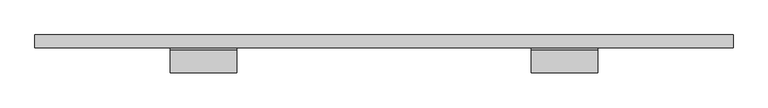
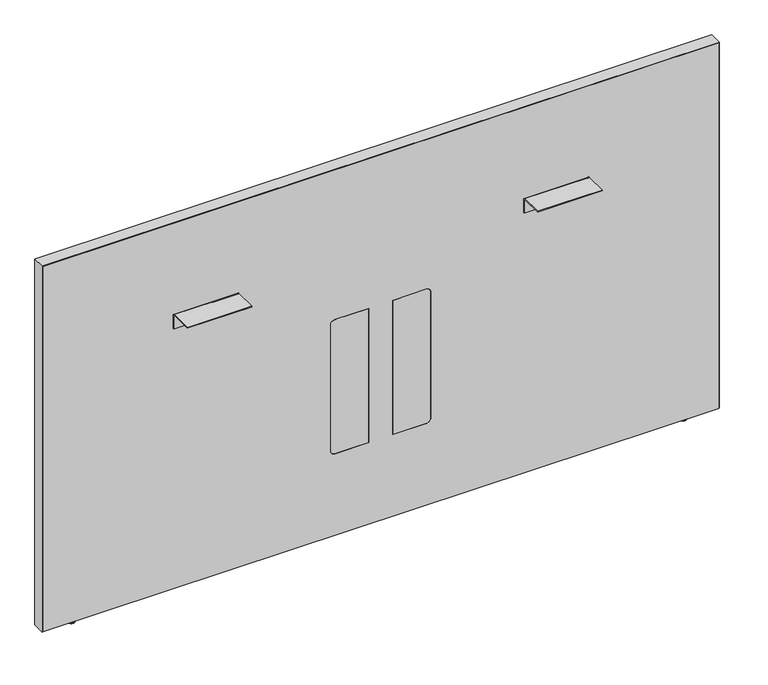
"""IFC4 building model written with IfcOpenShell, lengths in millimetres: furniture geometry, Steelcase - Answer Solution - Boundary Screen - Straight - Spanning : 36H x 63W."""

from ifc_helpers import new_model, si_unit, point, frame, frame_2d, origin, place, context, project, spatial, polyline, circle_curve, ellipse_curve, trimmed, segment, composite_curve, outline, extrude, source, transform, mapped, element, save
from ifc_brep_helpers import plane_surface, cylinder_surface, revolved_surface, advanced_brep


def furniture_7139db31(model_context):
    return source(origin(), model_context, "Body", "SolidModel", [
        advanced_brep(
        [(-493.0902705, -14.8449166, 9.9059849), (-493.0902705, -5.9309607, 9.9059849), (-493.0902705, -23.7588726, 9.9059849), (-493.0902705, -5.9309607, 2.9673238), (-493.0902705, -23.7588726, 2.9673238), (-493.0902705, -6.8982978, 2.9673238), (-493.0902705, -22.7915354, 2.9673238), (-493.0902705, -6.8982978, 1.6569081), (-493.0902705, -22.7915354, 1.6569081), (-493.0902705, -8.5552059, 0.0), (-493.0902705, -21.1346274, 0.0), (-493.0902705, -14.8449166, 0.0)],
        [
            (0, 1),
            (1, 2, circle_curve(frame((-493.0902705, -14.8449166, 9.9059849), z_axis=(0.0, 0.0, 1.0), x_axis=(0.0, 1.0, 0.0)), 8.913956)),
            (2, 0),
            (2, 1, circle_curve(frame((-493.0902705, -14.8449166, 9.9059849), z_axis=(0.0, 0.0, 1.0), x_axis=(0.0, 1.0, 0.0)), 8.913956)),
            (1, 3),
            (3, 4, circle_curve(frame((-493.0902705, -14.8449166, 2.9673238), z_axis=(0.0, 0.0, 1.0), x_axis=(0.0, 1.0, 0.0)), 8.913956)),
            (4, 2),
            (4, 3, circle_curve(frame((-493.0902705, -14.8449166, 2.9673238), z_axis=(0.0, 0.0, 1.0), x_axis=(0.0, 1.0, 0.0)), 8.913956)),
            (3, 5),
            (5, 6, circle_curve(frame((-493.0902705, -14.8449166, 2.9673238), z_axis=(0.0, 0.0, 1.0), x_axis=(0.0, 1.0, 0.0)), 7.9466188)),
            (6, 4),
            (6, 5, circle_curve(frame((-493.0902705, -14.8449166, 2.9673238), z_axis=(0.0, 0.0, 1.0), x_axis=(0.0, 1.0, 0.0)), 7.9466188)),
            (5, 7),
            (7, 8, circle_curve(frame((-493.0902705, -14.8449166, 1.6569081), z_axis=(0.0, 0.0, 1.0), x_axis=(0.0, 1.0, 0.0)), 7.9466188)),
            (8, 6),
            (8, 7, circle_curve(frame((-493.0902705, -14.8449166, 1.6569081), z_axis=(0.0, 0.0, 1.0), x_axis=(0.0, 1.0, 0.0)), 7.9466188)),
            (7, 9, circle_curve(frame((-493.0902705, -8.5552059, 1.6569081), z_axis=(-1.0, 0.0, 0.0), x_axis=(0.0, 1.0, 0.0)), 1.6569081)),
            (9, 10, circle_curve(frame((-493.0902705, -14.8449166, 0.0), z_axis=(0.0, 0.0, 1.0), x_axis=(0.0, 1.0, 0.0)), 6.2897107)),
            (10, 8, circle_curve(frame((-493.0902705, -21.1346274, 1.6569081), z_axis=(-1.0, 0.0, 0.0), x_axis=(0.0, -1.0, 0.0)), 1.6569081)),
            (10, 9, circle_curve(frame((-493.0902705, -14.8449166, 0.0), z_axis=(0.0, 0.0, 1.0), x_axis=(0.0, 1.0, 0.0)), 6.2897107)),
            (9, 11),
            (11, 10),
        ],
        [
            plane_surface(frame((-493.0902705, -14.8449166, 9.9059849), z_axis=(0.0, 0.0, 1.0), x_axis=(0.0, 1.0, 0.0))),
            cylinder_surface(frame((-493.0902705, -14.8449166, 9.9059849), z_axis=(0.0, 0.0, 1.0), x_axis=(0.0, 1.0, 0.0)), 8.913956),
            plane_surface(frame((-493.0902705, -14.8449166, 2.9673238), z_axis=(0.0, 0.0, -1.0), x_axis=(0.0, 1.0, 0.0))),
            cylinder_surface(frame((-493.0902705, -14.8449166, 9.9059849), z_axis=(0.0, 0.0, 1.0), x_axis=(0.0, 1.0, 0.0)), 7.9466188),
            revolved_surface(trimmed(ellipse_curve(frame((-493.0902705, -8.5552059, 1.6569081), z_axis=(1.0, 0.0, 0.0), x_axis=(0.0, 1.0, 0.0)), 1.6569081, 1.6569081), [point((-493.0902705, -8.5552059, 0.0))], [point((-493.0902705, -6.8982978, 1.6569081))], True, "CARTESIAN"), (-493.0902705, -14.8449166, 9.9059849), (0.0, 0.0, 1.0)),
            plane_surface(frame((-493.0902705, -14.8449166, 0.0), z_axis=(0.0, 0.0, -1.0), x_axis=(0.0, 1.0, 0.0))),
        ],
        [
            (0, [[1, 2, 3]]),
            (0, [[-3, 4, -1]]),
            (1, [[-2, 5, 6, 7]]),
            (1, [[-4, -7, 8, -5]]),
            (2, [[-6, 9, 10, 11]]),
            (2, [[-8, -11, 12, -9]]),
            (3, [[-10, 13, 14, 15]]),
            (3, [[-12, -15, 16, -13]]),
            (4, [[-14, 17, 18, 19]]),
            (4, [[-16, -19, 20, -17]]),
            (5, [[-18, 21, 22]]),
            (5, [[-20, -22, -21]]),
        ],
    ),
        extrude(outline(composite_curve([segment(polyline([(-86.8398151, 696.4680019), (-86.8398151, 698.5), (-34.9450855, 698.5)]), True, "CONTINUOUS"), segment(trimmed(circle_curve(frame_2d((-34.9450855, 693.2447477)), 5.2552523), [point((-34.9450855, 698.5))], [point((-29.6898332, 693.2447477))], False, "CARTESIAN"), True, "CONTINUOUS"), segment(polyline([(-29.6898332, 693.2447477), (-29.6898332, 660.4), (-31.7218162, 660.4), (-31.7218162, 693.0058743)]), True, "CONTINUOUS"), segment(trimmed(circle_curve(frame_2d((-35.1839438, 693.0058743)), 3.4621276), [point((-31.7218162, 693.0058743))], [point((-35.1839438, 696.4680019))], True, "CARTESIAN"), True, "CONTINUOUS"), segment(polyline([(-35.1839438, 696.4680019), (-86.8398151, 696.4680019)]), True, "CONTINUOUS")], self_intersect=False)), frame((567.8282189, 0.0, 0.0), z_axis=(1.0, 0.0, 0.0), x_axis=(0.0, 1.0, 0.0)), (0.0, 0.0, 1.0), 152.4000969),
        extrude(outline(composite_curve([segment(polyline([(-86.8398151, 696.4680019), (-86.8398151, 698.5), (-34.9450855, 698.5)]), True, "CONTINUOUS"), segment(trimmed(circle_curve(frame_2d((-34.9450855, 693.2447477)), 5.2552523), [point((-34.9450855, 698.5))], [point((-29.6898332, 693.2447477))], False, "CARTESIAN"), True, "CONTINUOUS"), segment(polyline([(-29.6898332, 693.2447477), (-29.6898332, 660.4), (-31.7218162, 660.4), (-31.7218162, 693.0058743)]), True, "CONTINUOUS"), segment(trimmed(circle_curve(frame_2d((-35.1839438, 693.0058743)), 3.4621276), [point((-31.7218162, 693.0058743))], [point((-35.1839438, 696.4680019))], True, "CARTESIAN"), True, "CONTINUOUS"), segment(polyline([(-35.1839438, 696.4680019), (-86.8398151, 696.4680019)]), True, "CONTINUOUS")], self_intersect=False)), frame((-260.5884581, 0.0, 0.0), z_axis=(1.0, 0.0, 0.0), x_axis=(0.0, 1.0, 0.0)), (0.0, 0.0, 1.0), 152.4000969),
        advanced_brep(
        [(952.7286488, -23.7588726, 9.9059849), (952.7286488, -5.9309607, 9.9059849), (952.7286488, -14.8449166, 9.9059849), (952.7286488, -23.7588726, 2.9673238), (952.7286488, -5.9309607, 2.9673238), (952.7286488, -22.7915354, 2.9673238), (952.7286488, -6.8982978, 2.9673238), (952.7286488, -22.7915354, 1.6569081), (952.7286488, -6.8982978, 1.6569081), (952.7286488, -21.1346274, 0.0), (952.7286488, -8.5552059, 0.0), (952.7286488, -14.8449166, 0.0)],
        [
            (0, 1, circle_curve(frame((952.7286488, -14.8449166, 9.9059849), z_axis=(0.0, 0.0, 1.0), x_axis=(0.0, 1.0, 0.0)), 8.913956)),
            (1, 2),
            (2, 0),
            (1, 0, circle_curve(frame((952.7286488, -14.8449166, 9.9059849), z_axis=(0.0, 0.0, 1.0), x_axis=(0.0, 1.0, 0.0)), 8.913956)),
            (3, 4, circle_curve(frame((952.7286488, -14.8449166, 2.9673238), z_axis=(0.0, 0.0, 1.0), x_axis=(0.0, 1.0, 0.0)), 8.913956)),
            (4, 1),
            (0, 3),
            (4, 3, circle_curve(frame((952.7286488, -14.8449166, 2.9673238), z_axis=(0.0, 0.0, 1.0), x_axis=(0.0, 1.0, 0.0)), 8.913956)),
            (5, 6, circle_curve(frame((952.7286488, -14.8449166, 2.9673238), z_axis=(0.0, 0.0, 1.0), x_axis=(0.0, 1.0, 0.0)), 7.9466188)),
            (6, 4),
            (3, 5),
            (6, 5, circle_curve(frame((952.7286488, -14.8449166, 2.9673238), z_axis=(0.0, 0.0, 1.0), x_axis=(0.0, 1.0, 0.0)), 7.9466188)),
            (7, 8, circle_curve(frame((952.7286488, -14.8449166, 1.6569081), z_axis=(0.0, 0.0, 1.0), x_axis=(0.0, 1.0, 0.0)), 7.9466188)),
            (8, 6),
            (5, 7),
            (8, 7, circle_curve(frame((952.7286488, -14.8449166, 1.6569081), z_axis=(0.0, 0.0, 1.0), x_axis=(0.0, 1.0, 0.0)), 7.9466188)),
            (9, 10, circle_curve(frame((952.7286488, -14.8449166, 0.0), z_axis=(0.0, 0.0, 1.0), x_axis=(0.0, 1.0, 0.0)), 6.2897107)),
            (10, 8, circle_curve(frame((952.7286488, -8.5552059, 1.6569081), z_axis=(1.0, 0.0, 0.0), x_axis=(0.0, 1.0, 0.0)), 1.6569081)),
            (7, 9, circle_curve(frame((952.7286488, -21.1346274, 1.6569081), z_axis=(1.0, 0.0, 0.0), x_axis=(0.0, -1.0, 0.0)), 1.6569081)),
            (10, 9, circle_curve(frame((952.7286488, -14.8449166, 0.0), z_axis=(0.0, 0.0, 1.0), x_axis=(0.0, 1.0, 0.0)), 6.2897107)),
            (11, 10),
            (9, 11),
        ],
        [
            plane_surface(frame((952.7286488, -14.8449166, 9.9059849), z_axis=(0.0, 0.0, 1.0), x_axis=(0.0, 1.0, 0.0))),
            cylinder_surface(frame((952.7286488, -14.8449166, 9.9059849), z_axis=(0.0, 0.0, -1.0), x_axis=(0.0, 1.0, 0.0)), 8.913956),
            plane_surface(frame((952.7286488, -14.8449166, 2.9673238), z_axis=(0.0, 0.0, -1.0), x_axis=(0.0, 1.0, 0.0))),
            cylinder_surface(frame((952.7286488, -14.8449166, 9.9059849), z_axis=(0.0, 0.0, -1.0), x_axis=(0.0, 1.0, 0.0)), 7.9466188),
            revolved_surface(trimmed(ellipse_curve(frame((952.7286488, -8.5552059, 1.6569081), z_axis=(-1.0, 0.0, 0.0), x_axis=(0.0, 1.0, 0.0)), 1.6569081, 1.6569081), [point((952.7286488, -6.8982978, 1.6569081))], [point((952.7286488, -8.5552059, 0.0))], True, "CARTESIAN"), (952.7286488, -14.8449166, 9.9059849), (0.0, 0.0, -1.0)),
            plane_surface(frame((952.7286488, -14.8449166, 0.0), z_axis=(0.0, 0.0, -1.0), x_axis=(0.0, 1.0, 0.0))),
        ],
        [
            (0, [[1, 2, 3]]),
            (0, [[4, -3, -2]]),
            (1, [[5, 6, -1, 7]]),
            (1, [[8, -7, -4, -6]]),
            (2, [[9, 10, -5, 11]]),
            (2, [[12, -11, -8, -10]]),
            (3, [[13, 14, -9, 15]]),
            (3, [[16, -15, -12, -14]]),
            (4, [[17, 18, -13, 19]]),
            (4, [[20, -19, -16, -18]]),
            (5, [[21, -17, 22]]),
            (5, [[-22, -20, -21]]),
        ],
    ),
        advanced_brep(
        [(1028.8780168, 0.0, 924.342118), (1028.8780168, 0.0, 9.9059849), (-569.2902221, 0.0, 9.9059849), (-569.2902221, 0.0, 924.342118), (1028.8780168, -29.6898332, 924.342118), (-569.2902221, -29.6898332, 924.342118), (-569.2902221, -29.6898332, 9.9059849), (1028.8780168, -29.6898332, 9.9059849), (337.7883813, -29.6898332, 549.6162029), (347.9483813, -29.6898332, 539.4562029), (347.9483813, -29.6898332, 223.9362137), (337.7883813, -29.6898332, 213.7762137), (258.1344836, -29.6898332, 213.7762137), (258.1344836, -29.6898332, 549.6162029), (121.849997, -29.6898332, 549.6162029), (201.5038947, -29.6898332, 549.6162029), (201.5038947, -29.6898332, 213.7762137), (121.849997, -29.6898332, 213.7762137), (111.689997, -29.6898332, 223.9362137), (111.689997, -29.6898332, 539.4562029), (258.1344836, -29.0550397, 549.6162029), (337.7883813, -29.0550397, 549.6162029), (258.1344836, -29.0550397, 213.7762137), (337.7883813, -29.0550397, 213.7762137), (347.9483813, -29.0550397, 223.9362137), (347.9483813, -29.0550397, 539.4562029), (121.849997, -29.0550397, 549.6162029), (111.689997, -29.0550397, 539.4562029), (111.689997, -29.0550397, 223.9362137), (121.849997, -29.0550397, 213.7762137), (201.5038947, -29.0550397, 213.7762137), (201.5038947, -29.0550397, 549.6162029)],
        [
            (0, 1),
            (1, 2),
            (2, 3),
            (3, 0),
            (4, 5),
            (5, 6),
            (6, 7),
            (7, 4),
            (8, 9, circle_curve(frame((337.7883813, -29.6898332, 539.4562029), z_axis=(0.0, 1.0, 0.0), x_axis=(0.0, 0.0, 1.0)), 10.16)),
            (9, 10),
            (10, 11, circle_curve(frame((337.7883813, -29.6898332, 223.9362137), z_axis=(0.0, 1.0, 0.0), x_axis=(0.0, 0.0, 1.0)), 10.16)),
            (11, 12),
            (12, 13),
            (13, 8),
            (14, 15),
            (15, 16),
            (16, 17),
            (17, 18, circle_curve(frame((121.849997, -29.6898332, 223.9362137), z_axis=(0.0, 1.0, 0.0), x_axis=(0.0, 0.0, 1.0)), 10.16)),
            (18, 19),
            (19, 14, circle_curve(frame((121.849997, -29.6898332, 539.4562029), z_axis=(0.0, 1.0, 0.0), x_axis=(0.0, 0.0, 1.0)), 10.16)),
            (0, 4),
            (7, 1),
            (6, 2),
            (5, 3),
            (13, 20),
            (20, 21),
            (21, 8),
            (12, 22),
            (22, 20),
            (11, 23),
            (23, 22),
            (10, 24),
            (24, 23, circle_curve(frame((337.7883813, -29.0550397, 223.9362137), z_axis=(0.0, 1.0, 0.0), x_axis=(0.0, 0.0, 1.0)), 10.16)),
            (9, 25),
            (25, 24),
            (21, 25, circle_curve(frame((337.7883813, -29.0550397, 539.4562029), z_axis=(0.0, 1.0, 0.0), x_axis=(0.0, 0.0, 1.0)), 10.16)),
            (26, 27, circle_curve(frame((121.849997, -29.0550397, 539.4562029), z_axis=(0.0, -1.0, 0.0), x_axis=(0.0, 0.0, 1.0)), 10.16)),
            (27, 28),
            (28, 29, circle_curve(frame((121.849997, -29.0550397, 223.9362137), z_axis=(0.0, -1.0, 0.0), x_axis=(0.0, 0.0, 1.0)), 10.16)),
            (29, 30),
            (30, 31),
            (31, 26),
            (19, 27),
            (26, 14),
            (18, 28),
            (17, 29),
            (16, 30),
            (15, 31),
        ],
        [
            plane_surface(frame((1028.8780168, 0.0, 924.342118), z_axis=(0.0, 1.0, 0.0), x_axis=(0.0, 0.0, -1.0))),
            plane_surface(frame((1028.8780168, -29.6898332, 924.342118), z_axis=(0.0, -1.0, 0.0), x_axis=(0.0, 0.0, 1.0))),
            plane_surface(frame((1028.8780168, 0.0, 924.342118), z_axis=(1.0, 0.0, 0.0), x_axis=(0.0, -1.0, 0.0))),
            plane_surface(frame((1028.8780168, 0.0, 9.9059849), z_axis=(0.0, 0.0, -1.0), x_axis=(0.0, -1.0, 0.0))),
            plane_surface(frame((-569.2902221, 0.0, 9.9059849), z_axis=(-1.0, 0.0, 0.0), x_axis=(0.0, -1.0, 0.0))),
            plane_surface(frame((-569.2902221, 0.0, 924.342118), z_axis=(0.0, 0.0, 1.0), x_axis=(0.0, -1.0, 0.0))),
            plane_surface(frame((337.7883813, 0.0, 549.6162029), z_axis=(0.0, 0.0, -1.0), x_axis=(0.0, -1.0, 0.0))),
            plane_surface(frame((258.1344836, 0.0, 549.6162029), z_axis=(1.0, 0.0, 0.0), x_axis=(0.0, -1.0, 0.0))),
            plane_surface(frame((258.1344836, 0.0, 213.7762137), z_axis=(0.0, 0.0, 1.0), x_axis=(0.0, -1.0, 0.0))),
            revolved_surface(polyline([(337.7883813, -29.6898332, 234.0962137), (337.7883813, -29.0550397, 234.0962137)]), (337.7883813, -29.6898332, 223.9362137), (0.0, -1.0, 0.0)),
            plane_surface(frame((347.9483813, 0.0, 223.9362137), z_axis=(-1.0, 0.0, 0.0), x_axis=(0.0, -1.0, 0.0))),
            revolved_surface(polyline([(337.7883813, -29.6898332, 549.6162029), (337.7883813, -29.0550397, 549.6162029)]), (337.7883813, -29.6898332, 539.4562029), (0.0, -1.0, 0.0)),
            plane_surface(frame((347.9483813, -29.0550397, 549.6162029), z_axis=(0.0, -1.0, 0.0), x_axis=(0.0, 0.0, 1.0))),
            revolved_surface(polyline([(121.849997, -29.6898332, 549.6162029), (121.849997, -29.0550397, 549.6162029)]), (121.849997, -29.6898332, 539.4562029), (0.0, -1.0, 0.0)),
            plane_surface(frame((111.689997, 0.0, 539.4562029), z_axis=(1.0, 0.0, 0.0), x_axis=(0.0, -1.0, 0.0))),
            revolved_surface(polyline([(121.849997, -29.6898332, 234.0962137), (121.849997, -29.0550397, 234.0962137)]), (121.849997, -29.6898332, 223.9362137), (0.0, -1.0, 0.0)),
            plane_surface(frame((121.849997, 0.0, 213.7762137), z_axis=(0.0, 0.0, 1.0), x_axis=(0.0, -1.0, 0.0))),
            plane_surface(frame((201.5038947, 0.0, 213.7762137), z_axis=(-1.0, 0.0, 0.0), x_axis=(0.0, -1.0, 0.0))),
            plane_surface(frame((201.5038947, 0.0, 549.6162029), z_axis=(0.0, 0.0, -1.0), x_axis=(0.0, -1.0, 0.0))),
        ],
        [
            (0, [[1, 2, 3, 4]]),
            (1, [[5, 6, 7, 8], [9, 10, 11, 12, 13, 14], [15, 16, 17, 18, 19, 20]]),
            (2, [[-1, 21, -8, 22]]),
            (3, [[-2, -22, -7, 23]]),
            (4, [[-3, -23, -6, 24]]),
            (5, [[-4, -24, -5, -21]]),
            (6, [[-14, 25, 26, 27]]),
            (7, [[-13, 28, 29, -25]]),
            (8, [[-12, 30, 31, -28]]),
            (9, [[-11, 32, 33, -30]]),
            (10, [[-10, 34, 35, -32]]),
            (11, [[-9, -27, 36, -34]]),
            (12, [[-26, -29, -31, -33, -35, -36]]),
            (12, [[37, 38, 39, 40, 41, 42]]),
            (13, [[-20, 43, -37, 44]]),
            (14, [[-19, 45, -38, -43]]),
            (15, [[-18, 46, -39, -45]]),
            (16, [[-17, 47, -40, -46]]),
            (17, [[-16, 48, -41, -47]]),
            (18, [[-15, -44, -42, -48]]),
        ],
    ),
        extrude(outline(composite_curve([segment(polyline([(549.6162029, 337.7883813), (549.6162029, 258.1344836), (213.7762137, 258.1344836), (213.7762137, 337.7883813)]), True, "CONTINUOUS"), segment(trimmed(circle_curve(frame_2d((223.9362137, 337.7883813)), 10.16), [point((213.7762137, 337.7883813))], [point((223.9362137, 347.9483813))], False, "CARTESIAN"), True, "CONTINUOUS"), segment(polyline([(223.9362137, 347.9483813), (539.4562029, 347.9483813)]), True, "CONTINUOUS"), segment(trimmed(circle_curve(frame_2d((539.4562029, 337.7883813)), 10.16), [point((539.4562029, 347.9483813))], [point((549.6162029, 337.7883813))], False, "CARTESIAN"), True, "CONTINUOUS")], self_intersect=False)), frame((0.0, -29.6898332, 0.0), z_axis=(0.0, 1.0, 0.0), x_axis=(0.0, 0.0, 1.0)), (0.0, 0.0, 1.0), 0.6347935),
        extrude(outline(composite_curve([segment(trimmed(circle_curve(frame_2d((539.4562029, 121.849997)), 10.16), [point((549.6162029, 121.849997))], [point((539.4562029, 111.689997))], False, "CARTESIAN"), True, "CONTINUOUS"), segment(polyline([(539.4562029, 111.689997), (223.9362137, 111.689997)]), True, "CONTINUOUS"), segment(trimmed(circle_curve(frame_2d((223.9362137, 121.849997)), 10.16), [point((223.9362137, 111.689997))], [point((213.7762137, 121.849997))], False, "CARTESIAN"), True, "CONTINUOUS"), segment(polyline([(213.7762137, 121.849997), (213.7762137, 201.5038947), (549.6162029, 201.5038947), (549.6162029, 121.849997)]), True, "CONTINUOUS")], self_intersect=False)), frame((0.0, -29.6898332, 0.0), z_axis=(0.0, 1.0, 0.0), x_axis=(0.0, 0.0, 1.0)), (0.0, 0.0, 1.0), 0.6347935),
        extrude(outline(polyline([(925.322, 1029.9191891), (925.322, -570.2808109), (9.9059849, -570.2808109), (9.9059849, -569.2902221), (924.342118, -569.2902221), (924.342118, 1028.8780168), (9.9059849, 1028.8780168), (9.9059849, 1029.9191891), (925.322, 1029.9191891)])), frame((0.0, -29.6898332, 0.0), z_axis=(0.0, 1.0, 0.0), x_axis=(0.0, 0.0, 1.0)), (0.0, 0.0, 1.0), 29.6898332),
    ])


if __name__ == "__main__":
    model = new_model("IFC4")
    model_context = context("Model", 3, world=origin())
    ifc_project = project(units=[si_unit("LENGTHUNIT", "METRE", prefix="MILLI")], contexts=[model_context])
    site = spatial("IfcSite", under=ifc_project)
    building = spatial("IfcBuilding", under=site)
    placement = place(None, origin())
    furniture_shape = furniture_7139db31(model_context)
    element("IfcFurniture", 1, ObjectType="Steelcase - Answer Solution - Boundary Screen - Straight - Spanning : 36H x 63W", at=placement, inside=building, context=model_context, shape_type="MappedRepresentation", body=[
        mapped(furniture_shape, transform((0.0, 0.0, 0.0), x_axis=(1.0, 0.0, 0.0), y_axis=(0.0, 1.0, 0.0), z_axis=(0.0, 0.0, 1.0))),
    ])
    save(model, "model.ifc")
